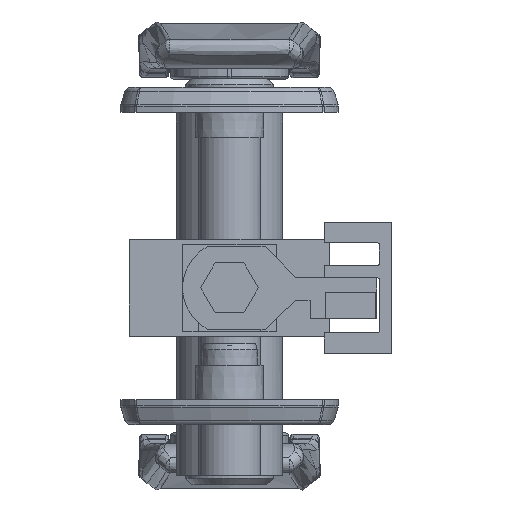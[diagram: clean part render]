
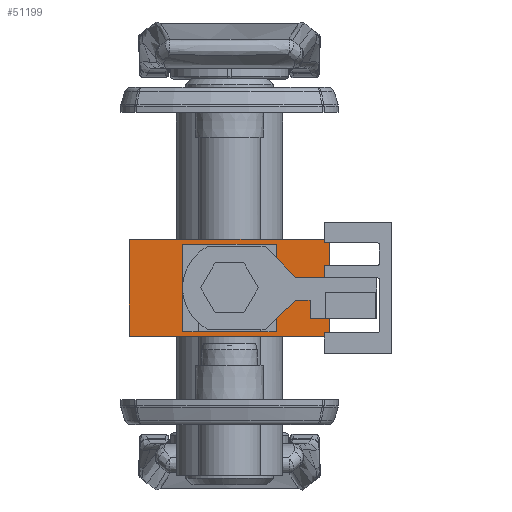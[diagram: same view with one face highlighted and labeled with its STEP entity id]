
A CAD part, front view. The second image highlights one B-rep face of the part: STEP entity #51199.
In plain terms, the highlighted planar face has unit normal (0, -1, 0).
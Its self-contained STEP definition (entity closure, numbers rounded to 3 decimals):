
#298 = ORIENTED_EDGE ( 'NONE', *, *, #45435, .F. ) ;
#858 = ORIENTED_EDGE ( 'NONE', *, *, #51435, .F. ) ;
#1313 = CARTESIAN_POINT ( 'NONE',  ( 16., -199.25, -7.75 ) ) ;
#1752 = ORIENTED_EDGE ( 'NONE', *, *, #10320, .F. ) ;
#2053 = EDGE_CURVE ( 'NONE', #21477, #25295, #32471, .T. ) ;
#2204 = VECTOR ( 'NONE', #37005, 1000. ) ;
#5548 = ORIENTED_EDGE ( 'NONE', *, *, #2053, .T. ) ;
#5572 = VECTOR ( 'NONE', #51011, 1000. ) ;
#7128 = VERTEX_POINT ( 'NONE', #29417 ) ;
#7273 = VECTOR ( 'NONE', #27975, 1000. ) ;
#9350 = CARTESIAN_POINT ( 'NONE',  ( -7., -199.25, -6.25 ) ) ;
#9925 = ORIENTED_EDGE ( 'NONE', *, *, #21980, .F. ) ;
#10005 = CARTESIAN_POINT ( 'NONE',  ( -16., -199.25, 7.75 ) ) ;
#10267 = ORIENTED_EDGE ( 'NONE', *, *, #35249, .T. ) ;
#10320 = EDGE_CURVE ( 'NONE', #31038, #21150, #33803, .T. ) ;
#10359 = DIRECTION ( 'NONE',  ( 1., 0., 0. ) ) ;
#10674 = VECTOR ( 'NONE', #10359, 1000. ) ;
#11258 = VECTOR ( 'NONE', #49806, 1000. ) ;
#13026 = CARTESIAN_POINT ( 'NONE',  ( -16., -199.25, 7.75 ) ) ;
#13559 = LINE ( 'NONE', #13026, #11258 ) ;
#14101 = VECTOR ( 'NONE', #33818, 1000. ) ;
#14128 = ORIENTED_EDGE ( 'NONE', *, *, #49240, .F. ) ;
#16820 = CARTESIAN_POINT ( 'NONE',  ( -7., -199.25, -6.25 ) ) ;
#17356 = CARTESIAN_POINT ( 'NONE',  ( 16., -199.25, 7.75 ) ) ;
#17880 = LINE ( 'NONE', #9350, #14101 ) ;
#19174 = EDGE_LOOP ( 'NONE', ( #298, #858, #14128, #35022 ) ) ;
#19631 = FACE_BOUND ( 'NONE', #19174, .T. ) ;
#20935 = LINE ( 'NONE', #37669, #31721 ) ;
#21150 = VERTEX_POINT ( 'NONE', #31121 ) ;
#21209 = DIRECTION ( 'NONE',  ( 0., 0., 1. ) ) ;
#21477 = VERTEX_POINT ( 'NONE', #42272 ) ;
#21980 = EDGE_CURVE ( 'NONE', #21150, #25295, #25344, .T. ) ;
#24068 = CARTESIAN_POINT ( 'NONE',  ( 7., -199.25, 6.25 ) ) ;
#25295 = VERTEX_POINT ( 'NONE', #1313 ) ;
#25344 = LINE ( 'NONE', #17356, #43229 ) ;
#26989 = VERTEX_POINT ( 'NONE', #48971 ) ;
#27975 = DIRECTION ( 'NONE',  ( 1., 0., 0. ) ) ;
#28056 = EDGE_LOOP ( 'NONE', ( #5548, #9925, #1752, #10267 ) ) ;
#29417 = CARTESIAN_POINT ( 'NONE',  ( -7., -199.25, 6.25 ) ) ;
#31038 = VERTEX_POINT ( 'NONE', #10005 ) ;
#31121 = CARTESIAN_POINT ( 'NONE',  ( 16., -199.25, 7.75 ) ) ;
#31328 = DIRECTION ( 'NONE',  ( 0., 0., 1. ) ) ;
#31721 = VECTOR ( 'NONE', #21209, 1000. ) ;
#32471 = LINE ( 'NONE', #52222, #7273 ) ;
#33803 = LINE ( 'NONE', #46117, #10674 ) ;
#33818 = DIRECTION ( 'NONE',  ( 0., 0., -1. ) ) ;
#34188 = LINE ( 'NONE', #50236, #5572 ) ;
#35022 = ORIENTED_EDGE ( 'NONE', *, *, #52172, .F. ) ;
#35249 = EDGE_CURVE ( 'NONE', #31038, #21477, #13559, .T. ) ;
#35569 = CARTESIAN_POINT ( 'NONE',  ( -16., -199.25, 7.75 ) ) ;
#35818 = PLANE ( 'NONE',  #36971 ) ;
#36697 = CARTESIAN_POINT ( 'NONE',  ( -7., -199.25, -6.25 ) ) ;
#36971 = AXIS2_PLACEMENT_3D ( 'NONE', #35569, #52374, #31328 ) ;
#37005 = DIRECTION ( 'NONE',  ( 1., 0., 0. ) ) ;
#37669 = CARTESIAN_POINT ( 'NONE',  ( 7., -199.25, 6.25 ) ) ;
#41825 = LINE ( 'NONE', #16820, #2204 ) ;
#41957 = VERTEX_POINT ( 'NONE', #24068 ) ;
#42272 = CARTESIAN_POINT ( 'NONE',  ( -16., -199.25, -7.75 ) ) ;
#43229 = VECTOR ( 'NONE', #45062, 1000. ) ;
#45062 = DIRECTION ( 'NONE',  ( 0., 0., -1. ) ) ;
#45435 = EDGE_CURVE ( 'NONE', #7128, #46511, #17880, .T. ) ;
#46117 = CARTESIAN_POINT ( 'NONE',  ( -16., -199.25, 7.75 ) ) ;
#46511 = VERTEX_POINT ( 'NONE', #36697 ) ;
#48152 = FACE_OUTER_BOUND ( 'NONE', #28056, .T. ) ;
#48971 = CARTESIAN_POINT ( 'NONE',  ( 7., -199.25, -6.25 ) ) ;
#49240 = EDGE_CURVE ( 'NONE', #26989, #41957, #20935, .T. ) ;
#49806 = DIRECTION ( 'NONE',  ( 0., 0., -1. ) ) ;
#50236 = CARTESIAN_POINT ( 'NONE',  ( 7., -199.25, 6.25 ) ) ;
#51011 = DIRECTION ( 'NONE',  ( -1., 0., 0. ) ) ;
#51199 = ADVANCED_FACE ( 'NONE', ( #19631, #48152 ), #35818, .F. ) ;
#51435 = EDGE_CURVE ( 'NONE', #41957, #7128, #34188, .T. ) ;
#52172 = EDGE_CURVE ( 'NONE', #46511, #26989, #41825, .T. ) ;
#52222 = CARTESIAN_POINT ( 'NONE',  ( -16., -199.25, -7.75 ) ) ;
#52374 = DIRECTION ( 'NONE',  ( 0., 1., 0. ) ) ;
